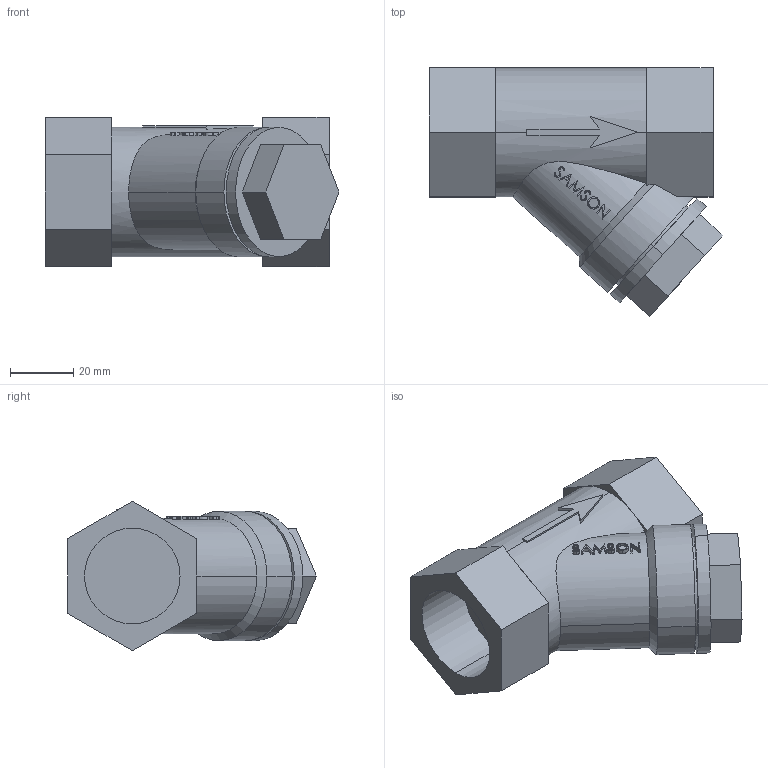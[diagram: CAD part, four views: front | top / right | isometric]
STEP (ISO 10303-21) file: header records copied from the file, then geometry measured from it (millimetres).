
FILE_DESCRIPTION (( 'STEP AP203' ), '1' );
FILE_NAME ('2601_1NI_G1_PN25.STEP', '2022-08-12T07:29:54', ( '' ), ( '' ), 'SwSTEP 2.0', 'SolidWorks 2020', '' );
FILE_SCHEMA (( 'CONFIG_CONTROL_DESIGN' ));
Length unit declared in the file: millimetre
Products named in the file (3): Geh2601_1N_DIN_G1z_025_IGWD_01000447; Gewindestopfen_DN025_G1z_00700411; 2601_1NI_G1_PN25
Assembly tree (2 placements, depth 2):
  2601_1NI_G1_PN25
    Geh2601_1N_DIN_G1z_025_IGWD_01000447
    Gewindestopfen_DN025_G1z_00700411
Bounding box: 93.12 x 78.87 x 47.34 mm (x, y, z)
Volume: 145288.9 mm3; surface area: 27000.1 mm2
Topology: 2 solids, 2 shells, 149 faces, 385 edges, 253 vertices
Faces by surface type: plane 92, bspline 38, cylinder 18, cone 1
Entity records: 6746 total; most frequent: CARTESIAN_POINT 3169, ORIENTED_EDGE 770, DIRECTION 530, EDGE_CURVE 385, VERTEX_POINT 253, VECTOR 210, LINE 210, EDGE_LOOP 162
